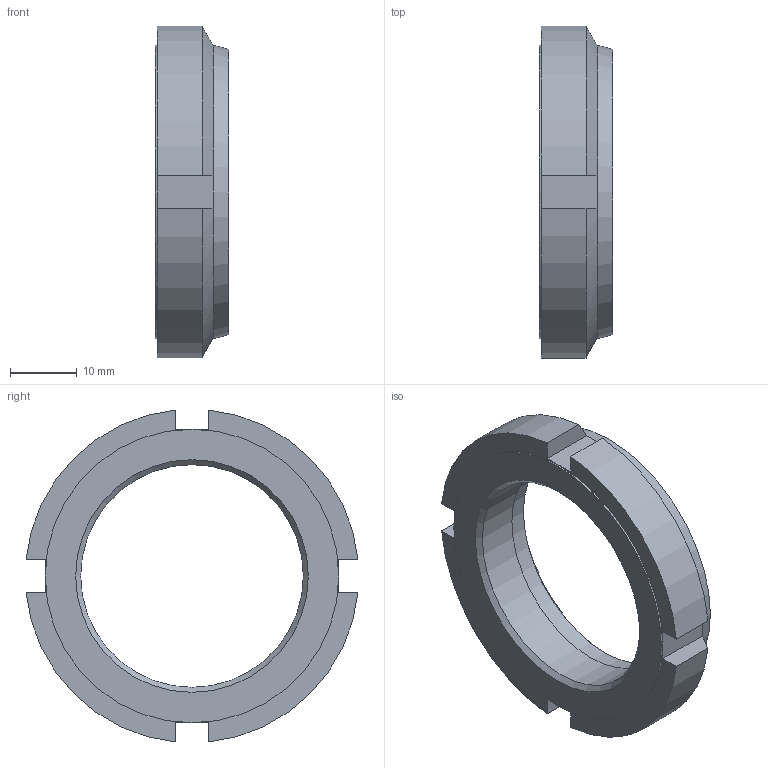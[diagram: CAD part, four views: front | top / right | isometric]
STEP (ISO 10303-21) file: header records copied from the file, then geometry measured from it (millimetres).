
FILE_DESCRIPTION( ( 'STEP AP203' ), '1' );
FILE_NAME( 'C:/Temp/Ganter_Step_05_03_2020/data/3_2/gn1804_1/Slotted locknut self-locking GN 1804.1-M35x1,5.stp', '2020-03-13T05:25:16', ( 'License CC BY-ND 4.0' ), ( 'CADENAS' ), ' ', 'PARTsolutions', ' ' );
FILE_SCHEMA( ( 'CONFIG_CONTROL_DESIGN' ) );
Length unit declared in the file: millimetre
Products named in the file (1): _Slotted locknut self-locking GN 1804.1-M35x1,5
Bounding box: 11 x 49.75 x 49.75 mm (x, y, z)
Volume: 9493.2 mm3; surface area: 4786.2 mm2
Topology: 1 solids, 1 shells, 34 faces, 79 edges, 49 vertices
Faces by surface type: plane 20, cylinder 8, cone 6
Full cylindrical faces by diameter (mm): 33.376 x1, 34.5 x1, 37 x1, 44 x1
Entity records: 1018 total; most frequent: CARTESIAN_POINT 229, DIRECTION 152, ORIENTED_EDGE 146, EDGE_CURVE 73, AXIS2_PLACEMENT_3D 60, VERTEX_POINT 49, EDGE_LOOP 44, FACE_OUTER_BOUND 38
